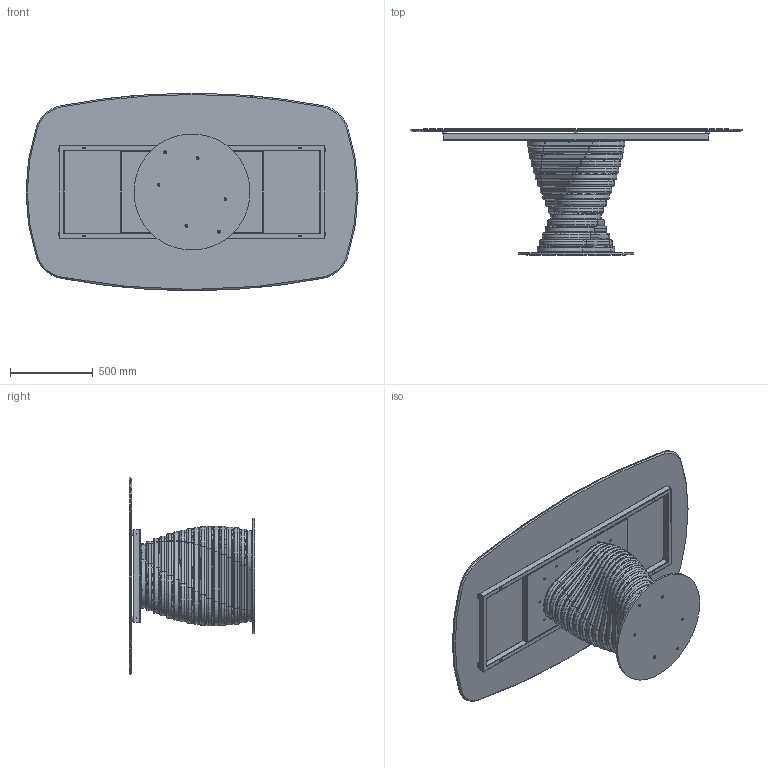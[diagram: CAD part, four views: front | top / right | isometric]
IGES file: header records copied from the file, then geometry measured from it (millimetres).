
Start section: SolidWorks IGES file using analytic representation for surfaces
Global section: file name: Y:\eforma\TECNICO\SOLIDWORKS\E-FORMA\1-TAVOLI\ROTOLO\02 parts\RO40C.IGS; native system: SolidWorks 2022; preprocessor: SolidWorks 2022; author: eforma.tech; date: 240807.153728; units: millimetre
Bounding box: 2000 x 758 x 1190 mm (x, y, z)
Volume: 47412749.8 mm3; surface area: 16515257.8 mm2
Topology: 99 solids, 99 shells, 1517 faces, 3597 edges, 2252 vertices
Faces by surface type: revolution 901, plane 616
